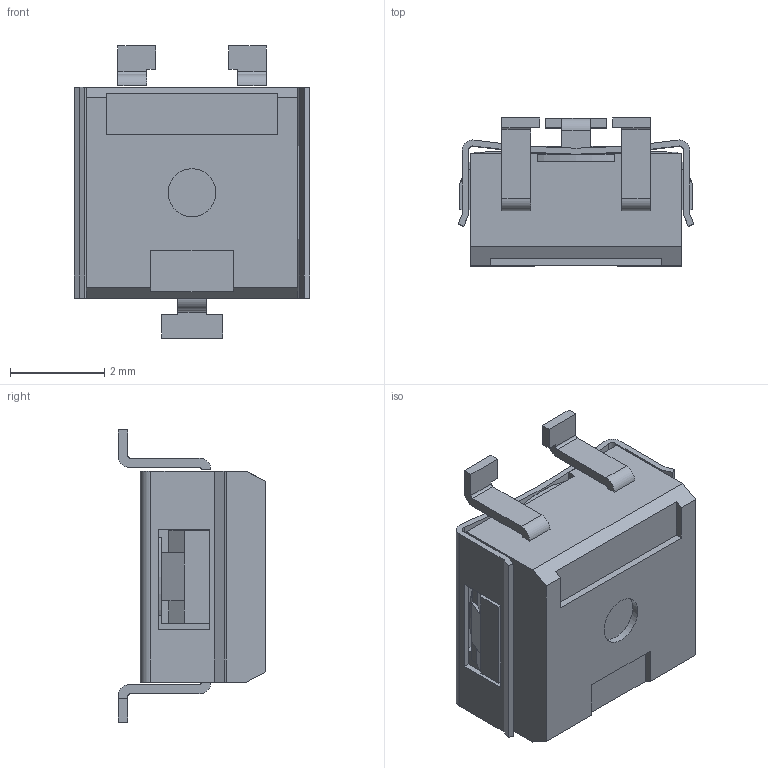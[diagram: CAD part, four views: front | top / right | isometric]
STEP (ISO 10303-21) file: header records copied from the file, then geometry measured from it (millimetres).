
FILE_DESCRIPTION(/* description */ ('Unknown'),/* implementation_level */ '2;1');
FILE_NAME(/* name */ 'TS4R',/* time_stamp */ '2026-07-09T10:51:28+02:00',/* author */ ('Unknown'),/* organization */ ('Unknown'),/* preprocessor_version */ 'ST-DEVELOPER v19.4',/* originating_system */ 'Solid Edge',/* authorisation */ 'Unknown');
FILE_SCHEMA (('AUTOMOTIVE_DESIGN {1 0 10303 214 3 1 1}'));
Length unit declared in the file: millimetre
Products named in the file (3): TS4R; Part_0; Part_1
Assembly tree (2 placements, depth 2):
  TS4R
    Part_0
    Part_1
Bounding box: 5 x 3.13 x 6.2 mm (x, y, z)
Volume: 52.4 mm3; surface area: 151.1 mm2
Topology: 4 solids, 4 shells, 271 faces, 745 edges, 495 vertices
Faces by surface type: plane 206, cylinder 58, cone 4, bspline 3
Full cylindrical faces by diameter (mm): 0.254 x2, 1.016 x1, 2.464 x1
Entity records: 10507 total; most frequent: CARTESIAN_POINT 1991, ORIENTED_EDGE 1480, DIRECTION 1336, EDGE_CURVE 740, VERTEX_POINT 494, LINE 478, VECTOR 478, AXIS2_PLACEMENT_3D 429
